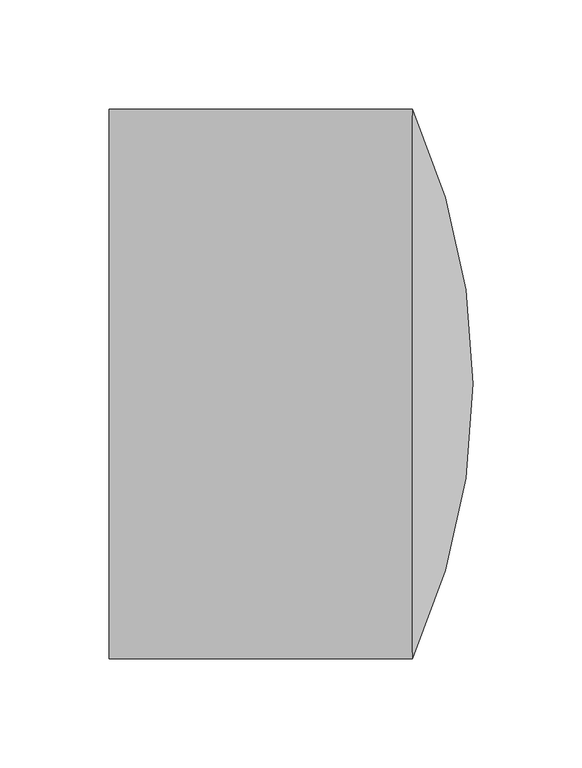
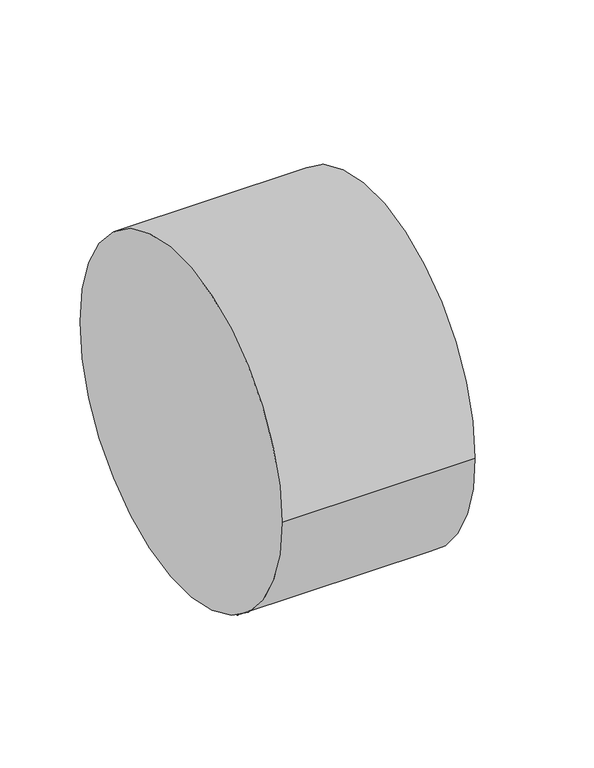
"""IFC4 building model written with IfcOpenShell, lengths in millimetres: pipe fitting geometry, 01051012 : Bouchons F."""

from ifc_helpers import new_model, si_unit, point, frame, origin, place, context, project, spatial, circle_curve, ellipse_curve, trimmed, source, transform, mapped, element, save
from ifc_brep_helpers import plane_surface, cylinder_surface, revolved_surface, advanced_brep


def pipe_fitting_cc8bac23(model_context):
    return source(origin(), model_context, "Body", "AdvancedBrep", [
        advanced_brep(
        [(139.1666667, 126.0, 0.0), (167.0, 0.0, 0.0), (139.1666667, -126.0, 0.0), (0.0, -126.0, 0.0), (0.0, 126.0, 0.0)],
        [
            (0, 1, circle_curve(frame((-138.1949709, -1.3432233, 0.0), z_axis=(0.0, 0.0, -1.0), x_axis=(1.0, 0.0, 0.0)), 305.1979268)),
            (1, 2, circle_curve(frame((-138.1949709, 1.3432233, 0.0), z_axis=(0.0, 0.0, -1.0), x_axis=(1.0, 0.0, 0.0)), 305.1979268)),
            (2, 0, circle_curve(frame((139.1666667, 0.0, 0.0), z_axis=(1.0, 0.0, 0.0), x_axis=(0.0, 1.0, 0.0)), 126.0)),
            (0, 2, circle_curve(frame((139.1666667, 0.0, 0.0), z_axis=(1.0, 0.0, 0.0), x_axis=(0.0, 1.0, 0.0)), 126.0)),
            (3, 4, circle_curve(frame((0.0, 0.0, 0.0), z_axis=(-1.0, 0.0, 0.0), x_axis=(0.0, 1.0, 0.0)), 126.0)),
            (4, 3, circle_curve(frame((0.0, 0.0, 0.0), z_axis=(-1.0, 0.0, 0.0), x_axis=(0.0, 1.0, 0.0)), 126.0)),
            (3, 2),
            (0, 4),
        ],
        [
            revolved_surface(trimmed(ellipse_curve(frame((-138.1949709, -1.3432233, 0.0), z_axis=(0.0, 0.0, 1.0), x_axis=(1.0, 0.0, 0.0)), 305.1979268, 305.1979268), [point((167.0, 0.0, 0.0))], [point((139.1666667, 126.0, 0.0))], True, "CARTESIAN"), (139.1666667, 0.0, 0.0), (-1.0, 0.0, 0.0)),
            plane_surface(frame((0.0, 0.0, 0.0), z_axis=(-1.0, 0.0, 0.0), x_axis=(0.0, 0.0, 1.0))),
            cylinder_surface(frame((0.0, 0.0, 0.0), z_axis=(-1.0, 0.0, 0.0), x_axis=(0.0, 1.0, 0.0)), 126.0),
        ],
        [
            (0, [[1, 2, 3]]),
            (0, [[-1, 4, -2]]),
            (1, [[5, 6]]),
            (2, [[-5, 7, -4, 8]]),
            (2, [[-6, -8, -3, -7]]),
        ],
    ),
    ])


if __name__ == "__main__":
    model = new_model("IFC4")
    model_context = context("Model", 3, world=origin())
    ifc_project = project(units=[si_unit("LENGTHUNIT", "METRE", prefix="MILLI")], contexts=[model_context])
    site = spatial("IfcSite", under=ifc_project)
    building = spatial("IfcBuilding", under=site)
    placement = place(None, origin())
    pipe_fitting_shape = pipe_fitting_cc8bac23(model_context)
    element("IfcPipeFitting", 1, ObjectType="01051012 : Bouchons F", at=placement, inside=building, context=model_context, shape_type="MappedRepresentation", body=[
        mapped(pipe_fitting_shape, transform((0.0, 0.0, 0.0), x_axis=(1.0, 0.0, 0.0), y_axis=(0.0, 1.0, 0.0), z_axis=(0.0, 0.0, 1.0))),
    ])
    save(model, "model.ifc")
